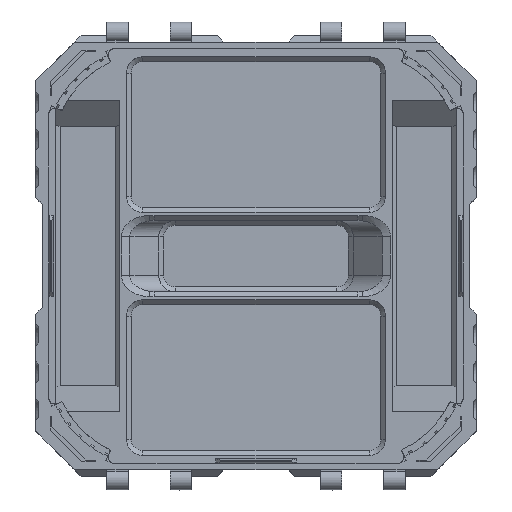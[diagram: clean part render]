
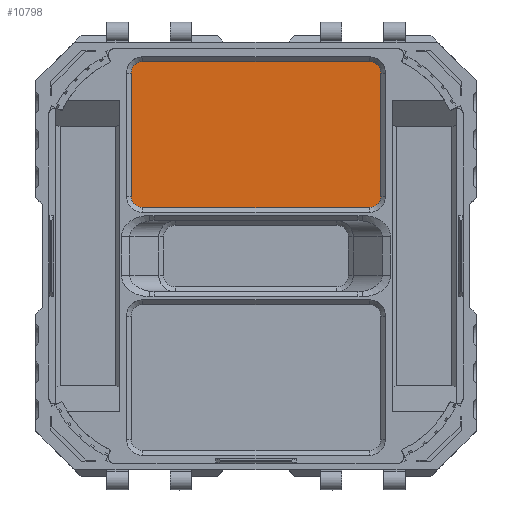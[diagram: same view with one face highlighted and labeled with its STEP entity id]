
A CAD part, top view. The second image highlights one B-rep face of the part: STEP entity #10798.
In plain terms, the highlighted planar face has unit normal (0, 0, 1).
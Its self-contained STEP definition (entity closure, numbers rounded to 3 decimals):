
#518=PLANE('',#11644);
#1052=FACE_OUTER_BOUND('',#1638,.T.);
#1638=EDGE_LOOP('',(#9906,#9907,#9908,#9909,#9910,#9911,#9912,#9913));
#1923=CIRCLE('',#11626,3.5);
#1925=CIRCLE('',#11630,3.5);
#1927=CIRCLE('',#11634,3.5);
#1929=CIRCLE('',#11638,3.5);
#3131=LINE('',#17605,#4401);
#3136=LINE('',#17619,#4406);
#3140=LINE('',#17631,#4410);
#3144=LINE('',#17643,#4414);
#4401=VECTOR('',#14405,10.);
#4406=VECTOR('',#14418,10.);
#4410=VECTOR('',#14430,10.);
#4414=VECTOR('',#14442,10.);
#5448=VERTEX_POINT('',#17602);
#5449=VERTEX_POINT('',#17604);
#5452=VERTEX_POINT('',#17611);
#5454=VERTEX_POINT('',#17617);
#5456=VERTEX_POINT('',#17623);
#5458=VERTEX_POINT('',#17629);
#5460=VERTEX_POINT('',#17635);
#5462=VERTEX_POINT('',#17641);
#6955=EDGE_CURVE('',#5448,#5449,#3131,.T.);
#6959=EDGE_CURVE('',#5452,#5448,#1923,.T.);
#6962=EDGE_CURVE('',#5454,#5452,#3136,.T.);
#6965=EDGE_CURVE('',#5456,#5454,#1925,.T.);
#6968=EDGE_CURVE('',#5458,#5456,#3140,.T.);
#6971=EDGE_CURVE('',#5460,#5458,#1927,.T.);
#6974=EDGE_CURVE('',#5462,#5460,#3144,.T.);
#6976=EDGE_CURVE('',#5449,#5462,#1929,.T.);
#9906=ORIENTED_EDGE('',*,*,#6955,.F.);
#9907=ORIENTED_EDGE('',*,*,#6959,.F.);
#9908=ORIENTED_EDGE('',*,*,#6962,.F.);
#9909=ORIENTED_EDGE('',*,*,#6965,.F.);
#9910=ORIENTED_EDGE('',*,*,#6968,.F.);
#9911=ORIENTED_EDGE('',*,*,#6971,.F.);
#9912=ORIENTED_EDGE('',*,*,#6974,.F.);
#9913=ORIENTED_EDGE('',*,*,#6976,.F.);
#10798=ADVANCED_FACE('',(#1052),#518,.F.);
#11626=AXIS2_PLACEMENT_3D('',#17613,#14411,#14412);
#11630=AXIS2_PLACEMENT_3D('',#17625,#14423,#14424);
#11634=AXIS2_PLACEMENT_3D('',#17637,#14435,#14436);
#11638=AXIS2_PLACEMENT_3D('',#17646,#14446,#14447);
#11644=AXIS2_PLACEMENT_3D('',#17657,#14463,#14464);
#14405=DIRECTION('',(1.,0.,0.));
#14411=DIRECTION('center_axis',(0.,0.,-1.));
#14412=DIRECTION('ref_axis',(-0.707,0.707,0.));
#14418=DIRECTION('',(0.,1.,0.));
#14423=DIRECTION('center_axis',(0.,0.,-1.));
#14424=DIRECTION('ref_axis',(-0.707,-0.707,0.));
#14430=DIRECTION('',(-1.,0.,0.));
#14435=DIRECTION('center_axis',(0.,0.,-1.));
#14436=DIRECTION('ref_axis',(0.707,-0.707,0.));
#14442=DIRECTION('',(0.,-1.,0.));
#14446=DIRECTION('center_axis',(0.,0.,-1.));
#14447=DIRECTION('ref_axis',(0.707,0.707,0.));
#14463=DIRECTION('center_axis',(0.,0.,-1.));
#14464=DIRECTION('ref_axis',(1.,0.,0.));
#17602=CARTESIAN_POINT('',(-35.,60.,-32.5));
#17604=CARTESIAN_POINT('',(35.,60.,-32.5));
#17605=CARTESIAN_POINT('',(-20.,60.,-32.5));
#17611=CARTESIAN_POINT('',(-38.5,56.5,-32.5));
#17613=CARTESIAN_POINT('Origin',(-35.,56.5,-32.5));
#17617=CARTESIAN_POINT('',(-38.5,18.5,-32.5));
#17619=CARTESIAN_POINT('',(-38.5,6.75,-32.5));
#17623=CARTESIAN_POINT('',(-35.,15.,-32.5));
#17625=CARTESIAN_POINT('Origin',(-35.,18.5,-32.5));
#17629=CARTESIAN_POINT('',(35.,15.,-32.5));
#17631=CARTESIAN_POINT('',(20.,15.,-32.5));
#17635=CARTESIAN_POINT('',(38.5,18.5,-32.5));
#17637=CARTESIAN_POINT('Origin',(35.,18.5,-32.5));
#17641=CARTESIAN_POINT('',(38.5,56.5,-32.5));
#17643=CARTESIAN_POINT('',(38.5,30.75,-32.5));
#17646=CARTESIAN_POINT('Origin',(35.,56.5,-32.5));
#17657=CARTESIAN_POINT('Origin',(0.,0.,-32.5));
